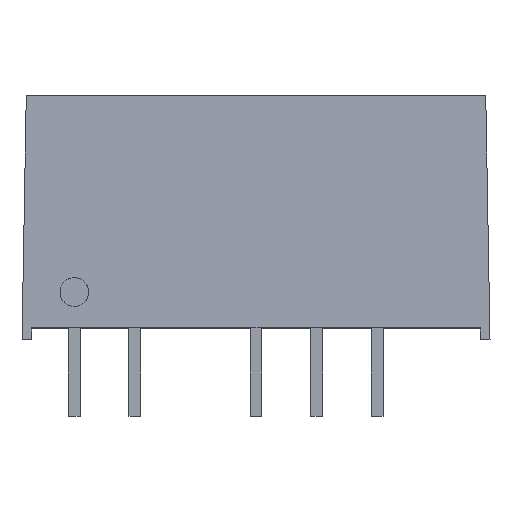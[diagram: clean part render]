
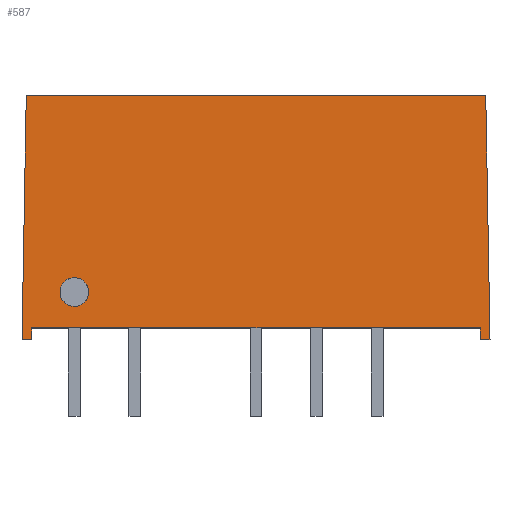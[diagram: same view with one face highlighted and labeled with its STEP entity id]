
A CAD part, top view. The second image highlights one B-rep face of the part: STEP entity #587.
In plain terms, the highlighted planar face has unit normal (0, 0.018, 1).
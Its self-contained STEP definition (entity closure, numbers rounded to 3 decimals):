
#2 = ORIENTED_EDGE ( 'NONE', *, *, #968, .F. ) ;
#14 = VECTOR ( 'NONE', #1171, 1000. ) ;
#42 = DIRECTION ( 'NONE',  ( 0.017, 1., -0.017 ) ) ;
#56 = VECTOR ( 'NONE', #780, 1000. ) ;
#70 = CARTESIAN_POINT ( 'NONE',  ( 9.415, 0., 3.6 ) ) ;
#74 = CARTESIAN_POINT ( 'NONE',  ( -6.42, 2.6, 3.555 ) ) ;
#77 = VERTEX_POINT ( 'NONE', #874 ) ;
#86 = CARTESIAN_POINT ( 'NONE',  ( -7.62, 2.6, 3.555 ) ) ;
#121 = DIRECTION ( 'NONE',  ( 0., -1., 0.017 ) ) ;
#148 = PLANE ( 'NONE',  #581 ) ;
#152 = ORIENTED_EDGE ( 'NONE', *, *, #571, .T. ) ;
#153 = CARTESIAN_POINT ( 'NONE',  ( -7.62, 2.6, 3.555 ) ) ;
#154 = EDGE_CURVE ( 'NONE', #746, #865, #686, .T. ) ;
#180 = CARTESIAN_POINT ( 'NONE',  ( -8.82, 2.6, 3.555 ) ) ;
#248 = EDGE_CURVE ( 'NONE', #762, #927, #1166, .T. ) ;
#274 = CARTESIAN_POINT ( 'NONE',  ( -8.82, 1.4, 3.576 ) ) ;
#315 = VECTOR ( 'NONE', #585, 1000. ) ;
#343 = CARTESIAN_POINT ( 'NONE',  ( 9.815, 0., 3.6 ) ) ;
#347 =( BOUNDED_CURVE ( )  B_SPLINE_CURVE ( 3, ( #153, #180, #274, #541, #936, #74, #86 ),
 .UNSPECIFIED., .T., .F. ) 
 B_SPLINE_CURVE_WITH_KNOTS ( ( 4, 3, 4 ),
 ( 0., 3.142, 6.283 ),
 .UNSPECIFIED. ) 
 CURVE ( )  GEOMETRIC_REPRESENTATION_ITEM ( )  RATIONAL_B_SPLINE_CURVE ( ( 1., 0.333, 0.333, 1., 0.333, 0.333, 1. ) ) 
 REPRESENTATION_ITEM ( '' )  );
#360 = ORIENTED_EDGE ( 'NONE', *, *, #669, .F. ) ;
#361 = CARTESIAN_POINT ( 'NONE',  ( -9.815, 0.5, 3.591 ) ) ;
#368 = LINE ( 'NONE', #458, #1122 ) ;
#374 = CARTESIAN_POINT ( 'NONE',  ( -9.815, 0., 3.6 ) ) ;
#388 = CARTESIAN_POINT ( 'NONE',  ( 9.813, 0.126, 3.598 ) ) ;
#438 = CARTESIAN_POINT ( 'NONE',  ( -7.62, 2.6, 3.555 ) ) ;
#440 = VECTOR ( 'NONE', #42, 1000. ) ;
#445 = ORIENTED_EDGE ( 'NONE', *, *, #1070, .T. ) ;
#458 = CARTESIAN_POINT ( 'NONE',  ( -9.815, 0., 3.6 ) ) ;
#459 = ORIENTED_EDGE ( 'NONE', *, *, #154, .F. ) ;
#522 = EDGE_LOOP ( 'NONE', ( #922, #152, #1106, #459, #2, #539, #445, #863 ) ) ;
#539 = ORIENTED_EDGE ( 'NONE', *, *, #248, .T. ) ;
#541 = CARTESIAN_POINT ( 'NONE',  ( -7.62, 1.4, 3.576 ) ) ;
#544 = LINE ( 'NONE', #1037, #772 ) ;
#549 = CARTESIAN_POINT ( 'NONE',  ( 9.636, 10.23, 3.421 ) ) ;
#551 = CARTESIAN_POINT ( 'NONE',  ( -9.815, 0., 3.6 ) ) ;
#560 = CARTESIAN_POINT ( 'NONE',  ( -9.406, 0.5, 3.591 ) ) ;
#571 = EDGE_CURVE ( 'NONE', #1049, #915, #811, .T. ) ;
#581 = AXIS2_PLACEMENT_3D ( 'NONE', #680, #1003, #121 ) ;
#585 = DIRECTION ( 'NONE',  ( 0.017, -1., 0.017 ) ) ;
#587 = ADVANCED_FACE ( 'NONE', ( #1017, #1028 ), #148, .T. ) ;
#615 = LINE ( 'NONE', #827, #440 ) ;
#669 = EDGE_CURVE ( 'NONE', #741, #741, #347, .T. ) ;
#680 = CARTESIAN_POINT ( 'NONE',  ( -9.815, 0., 3.6 ) ) ;
#686 = LINE ( 'NONE', #388, #315 ) ;
#713 = CARTESIAN_POINT ( 'NONE',  ( 9.409, 0.335, 3.594 ) ) ;
#716 = DIRECTION ( 'NONE',  ( 1., 0., 0. ) ) ;
#720 = CARTESIAN_POINT ( 'NONE',  ( -9.636, 10.23, 3.421 ) ) ;
#728 = VECTOR ( 'NONE', #793, 1000. ) ;
#741 = VERTEX_POINT ( 'NONE', #438 ) ;
#746 = VERTEX_POINT ( 'NONE', #549 ) ;
#751 = VECTOR ( 'NONE', #716, 1000. ) ;
#762 = VERTEX_POINT ( 'NONE', #720 ) ;
#772 = VECTOR ( 'NONE', #941, 1000. ) ;
#780 = DIRECTION ( 'NONE',  ( -0.017, -1., 0.017 ) ) ;
#793 = DIRECTION ( 'NONE',  ( 1., 0., 0. ) ) ;
#811 = LINE ( 'NONE', #713, #14 ) ;
#821 = EDGE_CURVE ( 'NONE', #915, #865, #926, .T. ) ;
#827 = CARTESIAN_POINT ( 'NONE',  ( -9.415, -0.007, 3.6 ) ) ;
#847 = EDGE_CURVE ( 'NONE', #77, #1012, #615, .T. ) ;
#863 = ORIENTED_EDGE ( 'NONE', *, *, #847, .T. ) ;
#865 = VERTEX_POINT ( 'NONE', #343 ) ;
#874 = CARTESIAN_POINT ( 'NONE',  ( -9.415, 0., 3.6 ) ) ;
#903 = EDGE_LOOP ( 'NONE', ( #360 ) ) ;
#904 = CARTESIAN_POINT ( 'NONE',  ( -9.815, 0., 3.6 ) ) ;
#915 = VERTEX_POINT ( 'NONE', #70 ) ;
#922 = ORIENTED_EDGE ( 'NONE', *, *, #1108, .T. ) ;
#926 = LINE ( 'NONE', #904, #751 ) ;
#927 = VERTEX_POINT ( 'NONE', #551 ) ;
#936 = CARTESIAN_POINT ( 'NONE',  ( -6.42, 1.4, 3.576 ) ) ;
#941 = DIRECTION ( 'NONE',  ( 1., 0., 0. ) ) ;
#949 = DIRECTION ( 'NONE',  ( 1., 0., 0. ) ) ;
#968 = EDGE_CURVE ( 'NONE', #762, #746, #544, .T. ) ;
#1003 = DIRECTION ( 'NONE',  ( 0., 0.017, 1. ) ) ;
#1012 = VERTEX_POINT ( 'NONE', #560 ) ;
#1017 = FACE_BOUND ( 'NONE', #903, .T. ) ;
#1028 = FACE_OUTER_BOUND ( 'NONE', #522, .T. ) ;
#1037 = CARTESIAN_POINT ( 'NONE',  ( -9.815, 10.23, 3.421 ) ) ;
#1049 = VERTEX_POINT ( 'NONE', #1067 ) ;
#1067 = CARTESIAN_POINT ( 'NONE',  ( 9.406, 0.5, 3.591 ) ) ;
#1070 = EDGE_CURVE ( 'NONE', #927, #77, #368, .T. ) ;
#1106 = ORIENTED_EDGE ( 'NONE', *, *, #821, .T. ) ;
#1108 = EDGE_CURVE ( 'NONE', #1012, #1049, #1244, .T. ) ;
#1122 = VECTOR ( 'NONE', #949, 1000. ) ;
#1166 = LINE ( 'NONE', #374, #56 ) ;
#1171 = DIRECTION ( 'NONE',  ( 0.017, -1., 0.017 ) ) ;
#1244 = LINE ( 'NONE', #361, #728 ) ;
